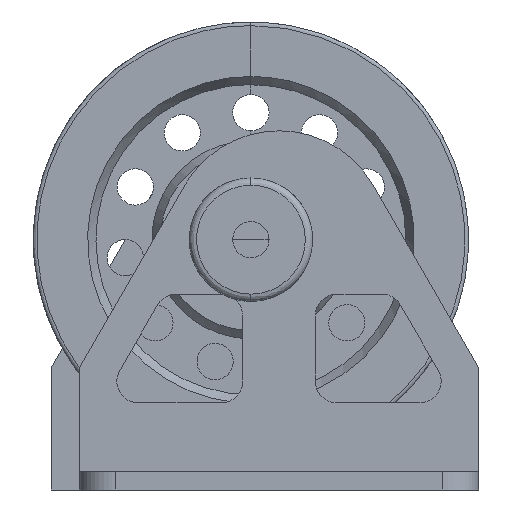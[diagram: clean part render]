
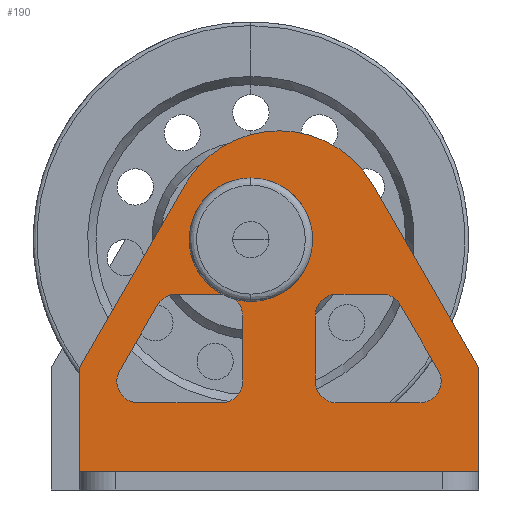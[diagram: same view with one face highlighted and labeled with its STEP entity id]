
A CAD part, left-side view. The second image highlights one B-rep face of the part: STEP entity #190.
In plain terms, the highlighted free-form (B-spline) face has degree [1, 1] with [2, 2] control points.
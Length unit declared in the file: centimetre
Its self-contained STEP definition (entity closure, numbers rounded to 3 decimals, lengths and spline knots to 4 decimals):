
#190=ADVANCED_FACE('',(#616,#513,#514,#515),#4530,.T.);
#513=FACE_BOUND('',#983,.T.);
#514=FACE_BOUND('',#984,.T.);
#515=FACE_BOUND('',#985,.T.);
#616=FACE_OUTER_BOUND('',#982,.T.);
#982=EDGE_LOOP('',(#1568,#1569,#1570,#1571,#1572,#1573));
#983=EDGE_LOOP('',(#1574,#1575));
#984=EDGE_LOOP('',(#1576));
#985=EDGE_LOOP('',(#1577,#1578));
#1568=ORIENTED_EDGE('',*,*,#3029,.T.);
#1569=ORIENTED_EDGE('',*,*,#3039,.T.);
#1570=ORIENTED_EDGE('',*,*,#3030,.T.);
#1571=ORIENTED_EDGE('',*,*,#3032,.T.);
#1572=ORIENTED_EDGE('',*,*,#3034,.T.);
#1573=ORIENTED_EDGE('',*,*,#3036,.T.);
#1574=ORIENTED_EDGE('',*,*,#3038,.T.);
#1575=ORIENTED_EDGE('',*,*,#3059,.T.);
#1576=ORIENTED_EDGE('',*,*,#3043,.F.);
#1577=ORIENTED_EDGE('',*,*,#3062,.F.);
#1578=ORIENTED_EDGE('',*,*,#3046,.F.);
#3029=EDGE_CURVE('',#3786,#3791,#13034,.T.);
#3030=EDGE_CURVE('',#3792,#3787,#13035,.T.);
#3032=EDGE_CURVE('',#3787,#3788,#13037,.T.);
#3034=EDGE_CURVE('',#3788,#3789,#4595,.T.);
#3036=EDGE_CURVE('',#3789,#3786,#13040,.T.);
#3038=EDGE_CURVE('',#3790,#3806,#4596,.T.);
#3039=EDGE_CURVE('',#3791,#3792,#13042,.T.);
#3043=EDGE_CURVE('',#3795,#3795,#4598,.T.);
#3046=EDGE_CURVE('',#3798,#3807,#4600,.T.);
#3059=EDGE_CURVE('',#3806,#3790,#4608,.T.);
#3062=EDGE_CURVE('',#3807,#3798,#4610,.T.);
#3786=VERTEX_POINT('',#6022);
#3787=VERTEX_POINT('',#6023);
#3788=VERTEX_POINT('',#6024);
#3789=VERTEX_POINT('',#6025);
#3790=VERTEX_POINT('',#6026);
#3791=VERTEX_POINT('',#6027);
#3792=VERTEX_POINT('',#6028);
#3795=VERTEX_POINT('',#6031);
#3798=VERTEX_POINT('',#6034);
#3806=VERTEX_POINT('',#6042);
#3807=VERTEX_POINT('',#6043);
#4530=B_SPLINE_SURFACE_WITH_KNOTS('',1,1,((#5873,#5874),(#5875,#5876)),.UNSPECIFIED.,
.F.,.F.,.F.,(2,2),(2,2),(-62.5,47.5),(-64.,30.),.UNSPECIFIED.);
#4595=(
BOUNDED_CURVE()
B_SPLINE_CURVE(2,(#5617,#5618,#5619,#5620,#5621),.UNSPECIFIED.,.F.,.F.)
B_SPLINE_CURVE_WITH_KNOTS((3,2,3),(15.708,47.1239,78.5398),
.UNSPECIFIED.)
CURVE()
GEOMETRIC_REPRESENTATION_ITEM()
RATIONAL_B_SPLINE_CURVE((1.,0.866,1.,0.866,1.))
REPRESENTATION_ITEM('')
);
#4596=(
BOUNDED_CURVE()
B_SPLINE_CURVE(2,(#5628,#5629,#5630,#5631,#5632),.UNSPECIFIED.,.F.,.F.)
B_SPLINE_CURVE_WITH_KNOTS((3,2,3),(-47.1239,-35.3429,-23.5619),
.UNSPECIFIED.)
CURVE()
GEOMETRIC_REPRESENTATION_ITEM()
RATIONAL_B_SPLINE_CURVE((1.,0.707,1.,0.707,1.))
REPRESENTATION_ITEM('')
);
#4598=(
BOUNDED_CURVE()
B_SPLINE_CURVE(2,(#5658,#5659,#5660,#5661,#5662,#5663,#5664,#5665,#5666,
#5667,#5668,#5669,#5670,#5671,#5672,#5673,#5674,#5675,#5676),.UNSPECIFIED.,
.T.,.F.)
B_SPLINE_CURVE_WITH_KNOTS((3,2,2,2,2,2,2,2,2,3),(-111.4484,-88.7781,
-79.3581,-61.3674,-51.9475,-39.6638,
-33.3336,-12.5598,-6.2799,0.),.UNSPECIFIED.)
CURVE()
GEOMETRIC_REPRESENTATION_ITEM()
RATIONAL_B_SPLINE_CURVE((1.,1.,1.,0.707,1.,1.,1.,0.707,
1.,1.,1.,0.865,1.,1.,1.,0.866,1.,0.866,
1.))
REPRESENTATION_ITEM('')
);
#4600=(
BOUNDED_CURVE()
B_SPLINE_CURVE(2,(#5688,#5689,#5690,#5691,#5692,#5693,#5694,#5695,#5696),
.UNSPECIFIED.,.F.,.F.)
B_SPLINE_CURVE_WITH_KNOTS((3,2,2,2,3),(-111.4484,-88.7781,
-82.4981,-76.2182,-55.4445),.UNSPECIFIED.)
CURVE()
GEOMETRIC_REPRESENTATION_ITEM()
RATIONAL_B_SPLINE_CURVE((1.,1.,1.,0.866,1.,0.866,
1.,1.,1.))
REPRESENTATION_ITEM('')
);
#4608=(
BOUNDED_CURVE()
B_SPLINE_CURVE(2,(#5742,#5743,#5744,#5745,#5746),.UNSPECIFIED.,.F.,.F.)
B_SPLINE_CURVE_WITH_KNOTS((3,2,3),(-23.5619,-11.781,0.),
.UNSPECIFIED.)
CURVE()
GEOMETRIC_REPRESENTATION_ITEM()
RATIONAL_B_SPLINE_CURVE((1.,0.707,1.,0.707,1.))
REPRESENTATION_ITEM('')
);
#4610=(
BOUNDED_CURVE()
B_SPLINE_CURVE(2,(#5760,#5761,#5762,#5763,#5764,#5765,#5766,#5767,#5768,
#5769,#5770),.UNSPECIFIED.,.F.,.F.)
B_SPLINE_CURVE_WITH_KNOTS((3,2,2,2,2,3),(-55.4445,-49.1143,
-36.8306,-27.4107,-9.4199,0.),.UNSPECIFIED.)
CURVE()
GEOMETRIC_REPRESENTATION_ITEM()
RATIONAL_B_SPLINE_CURVE((1.,0.865,1.,1.,1.,0.707,
1.,1.,1.,0.707,1.))
REPRESENTATION_ITEM('')
);
#5607=CARTESIAN_POINT('',(-56.5263,-22.5461,65.7372));
#5608=CARTESIAN_POINT('',(-56.5263,-22.5461,37.));
#5609=CARTESIAN_POINT('',(-56.5263,-132.5461,37.));
#5610=CARTESIAN_POINT('',(-56.5263,-132.5461,65.7372));
#5613=CARTESIAN_POINT('',(-56.5263,-132.5461,65.7372));
#5614=CARTESIAN_POINT('',(-56.5263,-103.5268,116.));
#5617=CARTESIAN_POINT('',(-56.5263,-103.5268,116.));
#5618=CARTESIAN_POINT('',(-56.5263,-94.8666,131.));
#5619=CARTESIAN_POINT('',(-56.5263,-77.5461,131.));
#5620=CARTESIAN_POINT('',(-56.5263,-60.2256,131.));
#5621=CARTESIAN_POINT('',(-56.5263,-51.5653,116.));
#5624=CARTESIAN_POINT('',(-56.5263,-51.5653,116.));
#5625=CARTESIAN_POINT('',(-56.5263,-22.5461,65.7372));
#5628=CARTESIAN_POINT('',(-56.5263,-85.0461,101.));
#5629=CARTESIAN_POINT('',(-56.5263,-85.0461,93.5));
#5630=CARTESIAN_POINT('',(-56.5263,-77.5461,93.5));
#5631=CARTESIAN_POINT('',(-56.5263,-70.0461,93.5));
#5632=CARTESIAN_POINT('',(-56.5263,-70.0461,101.));
#5633=CARTESIAN_POINT('',(-56.5263,-22.5461,37.));
#5634=CARTESIAN_POINT('',(-56.5263,-132.5461,37.));
#5658=CARTESIAN_POINT('',(-56.5263,-38.8641,56.));
#5659=CARTESIAN_POINT('',(-56.5263,-50.2051,56.));
#5660=CARTESIAN_POINT('',(-56.5263,-61.5461,56.));
#5661=CARTESIAN_POINT('',(-56.5263,-67.5461,56.));
#5662=CARTESIAN_POINT('',(-56.5263,-67.5461,62.));
#5663=CARTESIAN_POINT('',(-56.5263,-67.5461,71.));
#5664=CARTESIAN_POINT('',(-56.5263,-67.5461,80.));
#5665=CARTESIAN_POINT('',(-56.5263,-67.5461,86.));
#5666=CARTESIAN_POINT('',(-56.5263,-61.5461,86.));
#5667=CARTESIAN_POINT('',(-56.5263,-55.4011,86.));
#5668=CARTESIAN_POINT('',(-56.5263,-49.2561,86.));
#5669=CARTESIAN_POINT('',(-56.5263,-45.7752,86.));
#5670=CARTESIAN_POINT('',(-56.5263,-44.0474,82.9782));
#5671=CARTESIAN_POINT('',(-56.5263,-38.8577,73.989));
#5672=CARTESIAN_POINT('',(-56.5263,-33.6679,64.9999));
#5673=CARTESIAN_POINT('',(-56.5263,-31.9359,61.9999));
#5674=CARTESIAN_POINT('',(-56.5263,-33.6679,59.));
#5675=CARTESIAN_POINT('',(-56.5263,-35.4,56.));
#5676=CARTESIAN_POINT('',(-56.5263,-38.8641,56.));
#5688=CARTESIAN_POINT('',(-56.5263,-93.5461,56.));
#5689=CARTESIAN_POINT('',(-56.5263,-104.8871,56.));
#5690=CARTESIAN_POINT('',(-56.5263,-116.2281,56.));
#5691=CARTESIAN_POINT('',(-56.5263,-119.6921,56.));
#5692=CARTESIAN_POINT('',(-56.5263,-121.4242,59.));
#5693=CARTESIAN_POINT('',(-56.5263,-123.1563,61.9999));
#5694=CARTESIAN_POINT('',(-56.5263,-121.4243,64.9999));
#5695=CARTESIAN_POINT('',(-56.5263,-116.2345,73.989));
#5696=CARTESIAN_POINT('',(-56.5263,-111.0447,82.9782));
#5742=CARTESIAN_POINT('',(-56.5263,-70.0461,101.));
#5743=CARTESIAN_POINT('',(-56.5263,-70.0461,108.5));
#5744=CARTESIAN_POINT('',(-56.5263,-77.5461,108.5));
#5745=CARTESIAN_POINT('',(-56.5263,-85.0461,108.5));
#5746=CARTESIAN_POINT('',(-56.5263,-85.0461,101.));
#5760=CARTESIAN_POINT('',(-56.5263,-111.0447,82.9782));
#5761=CARTESIAN_POINT('',(-56.5263,-109.317,86.));
#5762=CARTESIAN_POINT('',(-56.5263,-105.8361,86.));
#5763=CARTESIAN_POINT('',(-56.5263,-99.6911,86.));
#5764=CARTESIAN_POINT('',(-56.5263,-93.5461,86.));
#5765=CARTESIAN_POINT('',(-56.5263,-87.5461,86.));
#5766=CARTESIAN_POINT('',(-56.5263,-87.5461,80.));
#5767=CARTESIAN_POINT('',(-56.5263,-87.5461,71.));
#5768=CARTESIAN_POINT('',(-56.5263,-87.5461,62.));
#5769=CARTESIAN_POINT('',(-56.5263,-87.5461,56.));
#5770=CARTESIAN_POINT('',(-56.5263,-93.5461,56.));
#5873=CARTESIAN_POINT('',(-56.5263,-22.5461,37.));
#5874=CARTESIAN_POINT('',(-56.5263,-22.5461,131.));
#5875=CARTESIAN_POINT('',(-56.5263,-132.5461,37.));
#5876=CARTESIAN_POINT('',(-56.5263,-132.5461,131.));
#6022=CARTESIAN_POINT('',(-56.5263,-22.5461,65.7372));
#6023=CARTESIAN_POINT('',(-56.5263,-132.5461,65.7372));
#6024=CARTESIAN_POINT('',(-56.5263,-103.5268,116.));
#6025=CARTESIAN_POINT('',(-56.5263,-51.5653,116.));
#6026=CARTESIAN_POINT('',(-56.5263,-85.0461,101.));
#6027=CARTESIAN_POINT('',(-56.5263,-22.5461,37.));
#6028=CARTESIAN_POINT('',(-56.5263,-132.5461,37.));
#6031=CARTESIAN_POINT('',(-56.5263,-38.8641,56.));
#6034=CARTESIAN_POINT('',(-56.5263,-93.5461,56.));
#6042=CARTESIAN_POINT('',(-56.5263,-70.0461,101.));
#6043=CARTESIAN_POINT('',(-56.5263,-111.0447,82.9782));
#13034=B_SPLINE_CURVE_WITH_KNOTS('',1,(#5607,#5608),.UNSPECIFIED.,.F.,.F.,
(2,2),(-28.7372,0.),.UNSPECIFIED.);
#13035=B_SPLINE_CURVE_WITH_KNOTS('',1,(#5609,#5610),.UNSPECIFIED.,.F.,.F.,
(2,2),(0.,28.7372),.UNSPECIFIED.);
#13037=B_SPLINE_CURVE_WITH_KNOTS('',1,(#5613,#5614),.UNSPECIFIED.,.F.,.F.,
(2,2),(-58.0385,0.),.UNSPECIFIED.);
#13040=B_SPLINE_CURVE_WITH_KNOTS('',1,(#5624,#5625),.UNSPECIFIED.,.F.,.F.,
(2,2),(0.,58.0385),.UNSPECIFIED.);
#13042=B_SPLINE_CURVE_WITH_KNOTS('',1,(#5633,#5634),.UNSPECIFIED.,.F.,.F.,
(2,2),(0.,110.),.UNSPECIFIED.);
